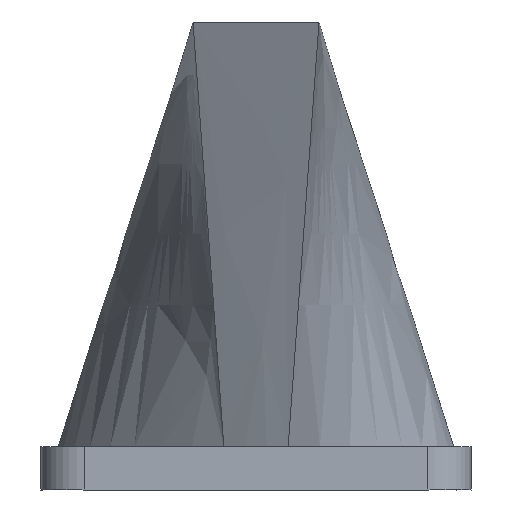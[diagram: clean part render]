
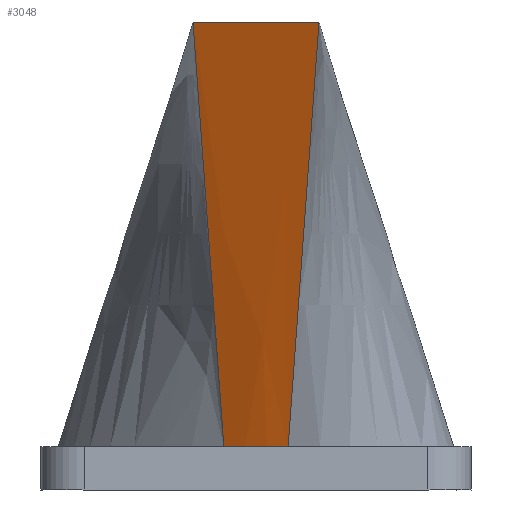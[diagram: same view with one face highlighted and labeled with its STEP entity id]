
A CAD part, front view. The second image highlights one B-rep face of the part: STEP entity #3048.
In plain terms, the highlighted free-form (B-spline) face has degree [3, 1] with [12, 4] control points.
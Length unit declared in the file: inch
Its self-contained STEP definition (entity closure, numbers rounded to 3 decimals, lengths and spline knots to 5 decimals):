
#170 = VERTEX_POINT ( 'NONE', #1717 ) ;
#181 = CARTESIAN_POINT ( 'NONE',  ( -50.28023, 24.23112, 0.1 ) ) ;
#208 = CARTESIAN_POINT ( 'NONE',  ( -50.02519, 24.22653, 0.0747 ) ) ;
#234 = CARTESIAN_POINT ( 'NONE',  ( -50.47319, 23.10209, 2.65501 ) ) ;
#339 = CARTESIAN_POINT ( 'NONE',  ( -50.15304, 24.21551, 0.1 ) ) ;
#367 = CARTESIAN_POINT ( 'NONE',  ( -49.96036, 24.22078, 0.1 ) ) ;
#588 = CARTESIAN_POINT ( 'NONE',  ( -50.28148, 24.23133, 0.1 ) ) ;
#624 = EDGE_CURVE ( 'NONE', #742, #170, #5020, .T. ) ;
#742 = VERTEX_POINT ( 'NONE', #1353 ) ;
#748 = CARTESIAN_POINT ( 'NONE',  ( -50.34003, 23.1022, 2.65501 ) ) ;
#778 = CARTESIAN_POINT ( 'NONE',  ( -50.21442, 23.10225, 2.65501 ) ) ;
#781 = ORIENTED_EDGE ( 'NONE', *, *, #3798, .F. ) ;
#822 = CARTESIAN_POINT ( 'NONE',  ( -50.46381, 23.11328, 2.62972 ) ) ;
#980 = CARTESIAN_POINT ( 'NONE',  ( -50.28213, 24.24293, 0.0747 ) ) ;
#1055 = CARTESIAN_POINT ( 'NONE',  ( -49.80561, 23.6722, 1.36486 ) ) ;
#1163 = CARTESIAN_POINT ( 'NONE',  ( -50.46381, 23.11328, 2.62972 ) ) ;
#1194 = CARTESIAN_POINT ( 'NONE',  ( -50.28088, 24.24272, 0.0747 ) ) ;
#1271 = CARTESIAN_POINT ( 'NONE',  ( -50.37202, 23.6722, 1.36486 ) ) ;
#1353 = CARTESIAN_POINT ( 'NONE',  ( -50.28023, 24.23112, 0.1 ) ) ;
#1407 = CARTESIAN_POINT ( 'NONE',  ( -50.15243, 24.22653, 0.0747 ) ) ;
#1566 = CARTESIAN_POINT ( 'NONE',  ( -49.70876, 23.11328, 2.62972 ) ) ;
#1590 = CARTESIAN_POINT ( 'NONE',  ( -50.28274, 24.23153, 0.1 ) ) ;
#1636 = DIRECTION ( 'NONE',  ( -0.066, -0.403, 0.913 ) ) ;
#1685 = CARTESIAN_POINT ( 'NONE',  ( -49.71381, 23.11328, 2.62972 ) ) ;
#1717 = CARTESIAN_POINT ( 'NONE',  ( -49.8974, 24.23112, 0.1 ) ) ;
#1846 = CARTESIAN_POINT ( 'NONE',  ( -50.47131, 23.11328, 2.62972 ) ) ;
#1903 = CARTESIAN_POINT ( 'NONE',  ( -50.46565, 23.1021, 2.65501 ) ) ;
#2006 = CARTESIAN_POINT ( 'NONE',  ( -49.89486, 24.23154, 0.1 ) ) ;
#2036 = CARTESIAN_POINT ( 'NONE',  ( -49.89924, 24.2423, 0.0747 ) ) ;
#2123 = B_SPLINE_SURFACE_WITH_KNOTS ( 'NONE', 3, 1, ( 
 ( #980, #4302, #1846, #234 ),
 ( #1194, #1590, #3214, #2687 ),
 ( #2664, #588, #4381, #4927 ),
 ( #4515, #181, #1163, #1903 ),
 ( #4485, #4108, #2713, #748 ),
 ( #1407, #339, #5184, #778 ),
 ( #208, #3081, #5235, #2309 ),
 ( #2284, #367, #2445, #3919 ),
 ( #2036, #3557, #4079, #2416 ),
 ( #3108, #5159, #3056, #5211 ),
 ( #2816, #2006, #1566, #4355 ),
 ( #3974, #4734, #3502, #4899 ) ),
 .UNSPECIFIED., .F., .F., .F.,
 ( 4, 3, 2, 3, 4 ),
 ( 2, 1, 1, 2 ),
 ( -0.01, 0., 0.5, 1., 1.0101 ),
 ( -0.01, 0., 1., 1.01 ),
 .UNSPECIFIED. ) ;
#2196 = VERTEX_POINT ( 'NONE', #822 ) ;
#2223 = AXIS2_PLACEMENT_3D ( 'NONE', #2710, #4816, #2738 ) ;
#2231 = LINE ( 'NONE', #1055, #2547 ) ;
#2284 = CARTESIAN_POINT ( 'NONE',  ( -49.96158, 24.23186, 0.0747 ) ) ;
#2309 = CARTESIAN_POINT ( 'NONE',  ( -49.96321, 23.10225, 2.65501 ) ) ;
#2416 = CARTESIAN_POINT ( 'NONE',  ( -49.71198, 23.1021, 2.65501 ) ) ;
#2445 = CARTESIAN_POINT ( 'NONE',  ( -49.83881, 23.11328, 2.62972 ) ) ;
#2500 = ORIENTED_EDGE ( 'NONE', *, *, #4049, .F. ) ;
#2547 = VECTOR ( 'NONE', #2686, 39.37008 ) ;
#2571 = DIRECTION ( 'NONE',  ( 1., 0., 0. ) ) ;
#2638 = FACE_OUTER_BOUND ( 'NONE', #5194, .T. ) ;
#2664 = CARTESIAN_POINT ( 'NONE',  ( -50.27964, 24.24251, 0.0747 ) ) ;
#2686 = DIRECTION ( 'NONE',  ( 0.066, -0.403, 0.913 ) ) ;
#2687 = CARTESIAN_POINT ( 'NONE',  ( -50.47067, 23.10209, 2.65501 ) ) ;
#2710 = CARTESIAN_POINT ( 'NONE',  ( -50.08881, 25.39661, 0.1 ) ) ;
#2713 = CARTESIAN_POINT ( 'NONE',  ( -50.33881, 23.11328, 2.62972 ) ) ;
#2738 = DIRECTION ( 'NONE',  ( 1., 0., 0. ) ) ;
#2816 = CARTESIAN_POINT ( 'NONE',  ( -49.89672, 24.24272, 0.0747 ) ) ;
#3048 = ADVANCED_FACE ( 'NONE', ( #2638 ), #2123, .T. ) ;
#3056 = CARTESIAN_POINT ( 'NONE',  ( -49.71129, 23.11328, 2.62972 ) ) ;
#3081 = CARTESIAN_POINT ( 'NONE',  ( -50.02458, 24.21551, 0.1 ) ) ;
#3108 = CARTESIAN_POINT ( 'NONE',  ( -49.89798, 24.24251, 0.0747 ) ) ;
#3214 = CARTESIAN_POINT ( 'NONE',  ( -50.46881, 23.11328, 2.62972 ) ) ;
#3294 = ORIENTED_EDGE ( 'NONE', *, *, #4759, .T. ) ;
#3502 = CARTESIAN_POINT ( 'NONE',  ( -49.70624, 23.11328, 2.62972 ) ) ;
#3557 = CARTESIAN_POINT ( 'NONE',  ( -49.8974, 24.23112, 0.1 ) ) ;
#3742 = LINE ( 'NONE', #1271, #5187 ) ;
#3772 = ORIENTED_EDGE ( 'NONE', *, *, #624, .T. ) ;
#3798 = EDGE_CURVE ( 'NONE', #742, #2196, #3742, .T. ) ;
#3876 = LINE ( 'NONE', #4666, #3960 ) ;
#3919 = CARTESIAN_POINT ( 'NONE',  ( -49.8376, 23.1022, 2.65501 ) ) ;
#3960 = VECTOR ( 'NONE', #2571, 39.37008 ) ;
#3974 = CARTESIAN_POINT ( 'NONE',  ( -49.89546, 24.24293, 0.0747 ) ) ;
#4049 = EDGE_CURVE ( 'NONE', #2196, #4649, #3876, .T. ) ;
#4079 = CARTESIAN_POINT ( 'NONE',  ( -49.71381, 23.11328, 2.62972 ) ) ;
#4108 = CARTESIAN_POINT ( 'NONE',  ( -50.21726, 24.22078, 0.1 ) ) ;
#4302 = CARTESIAN_POINT ( 'NONE',  ( -50.284, 24.23174, 0.1 ) ) ;
#4355 = CARTESIAN_POINT ( 'NONE',  ( -49.7069, 23.10209, 2.65501 ) ) ;
#4381 = CARTESIAN_POINT ( 'NONE',  ( -50.46631, 23.11328, 2.62972 ) ) ;
#4485 = CARTESIAN_POINT ( 'NONE',  ( -50.21605, 24.23186, 0.0747 ) ) ;
#4515 = CARTESIAN_POINT ( 'NONE',  ( -50.27839, 24.2423, 0.0747 ) ) ;
#4649 = VERTEX_POINT ( 'NONE', #1685 ) ;
#4666 = CARTESIAN_POINT ( 'NONE',  ( -50.46381, 23.11328, 2.62972 ) ) ;
#4734 = CARTESIAN_POINT ( 'NONE',  ( -49.89359, 24.23175, 0.1 ) ) ;
#4759 = EDGE_CURVE ( 'NONE', #170, #4649, #2231, .T. ) ;
#4816 = DIRECTION ( 'NONE',  ( 0., 0., 1. ) ) ;
#4899 = CARTESIAN_POINT ( 'NONE',  ( -49.70436, 23.10209, 2.65501 ) ) ;
#4927 = CARTESIAN_POINT ( 'NONE',  ( -50.46816, 23.1021, 2.65501 ) ) ;
#5020 = CIRCLE ( 'NONE', #2223, 1.1811 ) ;
#5159 = CARTESIAN_POINT ( 'NONE',  ( -49.89613, 24.23133, 0.1 ) ) ;
#5184 = CARTESIAN_POINT ( 'NONE',  ( -50.21381, 23.11328, 2.62972 ) ) ;
#5187 = VECTOR ( 'NONE', #1636, 39.37008 ) ;
#5194 = EDGE_LOOP ( 'NONE', ( #3772, #3294, #2500, #781 ) ) ;
#5211 = CARTESIAN_POINT ( 'NONE',  ( -49.70944, 23.1021, 2.65501 ) ) ;
#5235 = CARTESIAN_POINT ( 'NONE',  ( -49.96381, 23.11328, 2.62972 ) ) ;
